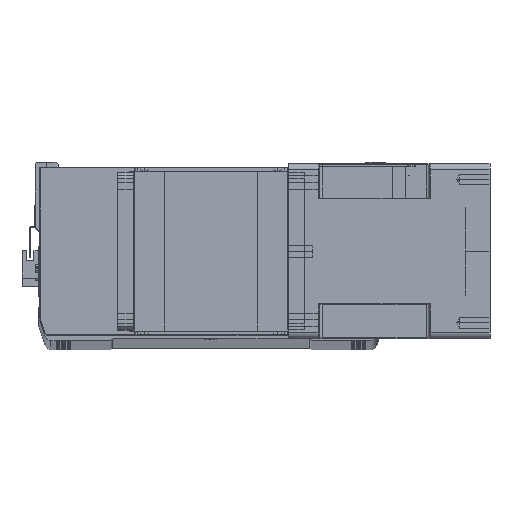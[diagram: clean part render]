
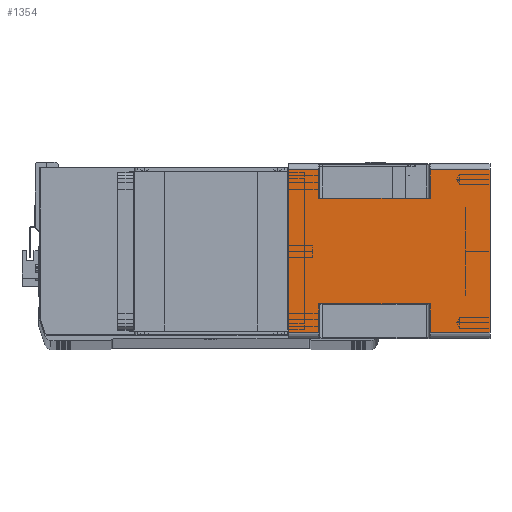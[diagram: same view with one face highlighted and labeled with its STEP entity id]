
A CAD part, top view. The second image highlights one B-rep face of the part: STEP entity #1354.
In plain terms, the highlighted planar face has unit normal (0, 0, 1) as drawn and (1, 0, 0) by its records, which use the part's own axes.
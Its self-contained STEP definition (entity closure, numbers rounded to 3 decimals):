
#300 = VECTOR ( 'NONE', #25486, 1000. ) ;
#1149 = VECTOR ( 'NONE', #27976, 1000. ) ;
#1283 = ORIENTED_EDGE ( 'NONE', *, *, #35229, .T. ) ;
#1354 = ADVANCED_FACE ( 'NONE', ( #35197 ), #1384, .T. ) ;
#1384 = PLANE ( 'NONE',  #24129 ) ;
#1891 = ORIENTED_EDGE ( 'NONE', *, *, #7673, .T. ) ;
#1952 = CARTESIAN_POINT ( 'NONE',  ( 71., -66., -115.5 ) ) ;
#2002 = CARTESIAN_POINT ( 'NONE',  ( 71., -66., -164. ) ) ;
#2367 = ORIENTED_EDGE ( 'NONE', *, *, #21712, .F. ) ;
#2446 = CARTESIAN_POINT ( 'NONE',  ( 71., 66., 0. ) ) ;
#2822 = VECTOR ( 'NONE', #30596, 1000. ) ;
#2970 = CARTESIAN_POINT ( 'NONE',  ( 71., -66., -164. ) ) ;
#3609 = EDGE_CURVE ( 'NONE', #33498, #3744, #27576, .T. ) ;
#3744 = VERTEX_POINT ( 'NONE', #37871 ) ;
#3885 = ORIENTED_EDGE ( 'NONE', *, *, #23223, .F. ) ;
#3886 = VECTOR ( 'NONE', #12832, 1000. ) ;
#4821 = CARTESIAN_POINT ( 'NONE',  ( 71., -43., -24.5 ) ) ;
#4894 = LINE ( 'NONE', #16362, #5373 ) ;
#5203 = VERTEX_POINT ( 'NONE', #8467 ) ;
#5373 = VECTOR ( 'NONE', #22307, 1000. ) ;
#6434 = EDGE_CURVE ( 'NONE', #28082, #17683, #24520, .T. ) ;
#6644 = EDGE_CURVE ( 'NONE', #17683, #30566, #28159, .T. ) ;
#6706 = CARTESIAN_POINT ( 'NONE',  ( 71., -66., -24.5 ) ) ;
#6786 = ORIENTED_EDGE ( 'NONE', *, *, #13536, .T. ) ;
#7673 = EDGE_CURVE ( 'NONE', #7784, #28082, #4894, .T. ) ;
#7784 = VERTEX_POINT ( 'NONE', #2970 ) ;
#8459 = CARTESIAN_POINT ( 'NONE',  ( 71., -43., -164. ) ) ;
#8467 = CARTESIAN_POINT ( 'NONE',  ( 71., 43., -24.5 ) ) ;
#9980 = VERTEX_POINT ( 'NONE', #28457 ) ;
#10025 = LINE ( 'NONE', #16212, #36262 ) ;
#11021 = CARTESIAN_POINT ( 'NONE',  ( 71., 66., -164. ) ) ;
#11029 = VECTOR ( 'NONE', #25930, 1000. ) ;
#11376 = CARTESIAN_POINT ( 'NONE',  ( 71., 66., -164. ) ) ;
#11938 = VECTOR ( 'NONE', #14504, 1000. ) ;
#12171 = LINE ( 'NONE', #4821, #1149 ) ;
#12832 = DIRECTION ( 'NONE',  ( 0., 0., 1. ) ) ;
#13450 = LINE ( 'NONE', #33700, #2822 ) ;
#13488 = EDGE_CURVE ( 'NONE', #21686, #36299, #21402, .T. ) ;
#13536 = EDGE_CURVE ( 'NONE', #21686, #3744, #12171, .T. ) ;
#13545 = ORIENTED_EDGE ( 'NONE', *, *, #6434, .T. ) ;
#14504 = DIRECTION ( 'NONE',  ( 0., 0., 1. ) ) ;
#14515 = ORIENTED_EDGE ( 'NONE', *, *, #32695, .T. ) ;
#15564 = DIRECTION ( 'NONE',  ( 0., 1., 0. ) ) ;
#15850 = LINE ( 'NONE', #6706, #31502 ) ;
#16212 = CARTESIAN_POINT ( 'NONE',  ( 71., -66., 0. ) ) ;
#16362 = CARTESIAN_POINT ( 'NONE',  ( 71., -66., -164. ) ) ;
#16949 = CARTESIAN_POINT ( 'NONE',  ( 71., -66., -115.5 ) ) ;
#17508 = DIRECTION ( 'NONE',  ( 0., 0., 1. ) ) ;
#17683 = VERTEX_POINT ( 'NONE', #23509 ) ;
#17997 = VECTOR ( 'NONE', #17508, 1000. ) ;
#18039 = CARTESIAN_POINT ( 'NONE',  ( 71., 43., -115.5 ) ) ;
#18628 = VERTEX_POINT ( 'NONE', #2446 ) ;
#18762 = CARTESIAN_POINT ( 'NONE',  ( 71., 66., -164. ) ) ;
#18807 = CARTESIAN_POINT ( 'NONE',  ( 71., -66., 0. ) ) ;
#19068 = CARTESIAN_POINT ( 'NONE',  ( 71., -66., -164. ) ) ;
#19438 = EDGE_CURVE ( 'NONE', #36299, #18628, #10025, .T. ) ;
#20895 = DIRECTION ( 'NONE',  ( 0., -1., 0. ) ) ;
#21402 = LINE ( 'NONE', #21714, #3886 ) ;
#21571 = DIRECTION ( 'NONE',  ( 0., 1., 0. ) ) ;
#21686 = VERTEX_POINT ( 'NONE', #36751 ) ;
#21712 = EDGE_CURVE ( 'NONE', #5203, #30566, #13450, .T. ) ;
#21714 = CARTESIAN_POINT ( 'NONE',  ( 71., -66., -164. ) ) ;
#21781 = DIRECTION ( 'NONE',  ( 0., 1., 0. ) ) ;
#21953 = DIRECTION ( 'NONE',  ( 1., 0., 0. ) ) ;
#22100 = EDGE_LOOP ( 'NONE', ( #35758, #1283, #3885, #1891, #13545, #28071, #2367, #31389, #14515, #30570, #34670, #6786 ) ) ;
#22307 = DIRECTION ( 'NONE',  ( 0., 1., 0. ) ) ;
#22454 = CARTESIAN_POINT ( 'NONE',  ( 71., -43., -115.5 ) ) ;
#23138 = VECTOR ( 'NONE', #20895, 1000. ) ;
#23223 = EDGE_CURVE ( 'NONE', #7784, #25097, #30344, .T. ) ;
#23509 = CARTESIAN_POINT ( 'NONE',  ( 71., 66., -115.5 ) ) ;
#24129 = AXIS2_PLACEMENT_3D ( 'NONE', #19068, #21953, #21571 ) ;
#24520 = LINE ( 'NONE', #11021, #36939 ) ;
#25097 = VERTEX_POINT ( 'NONE', #16949 ) ;
#25486 = DIRECTION ( 'NONE',  ( 0., -1., 0. ) ) ;
#25903 = CARTESIAN_POINT ( 'NONE',  ( 71., 43., -115.5 ) ) ;
#25930 = DIRECTION ( 'NONE',  ( 0., 0., 1. ) ) ;
#26894 = LINE ( 'NONE', #1952, #300 ) ;
#27576 = LINE ( 'NONE', #8459, #11938 ) ;
#27976 = DIRECTION ( 'NONE',  ( 0., 1., 0. ) ) ;
#28071 = ORIENTED_EDGE ( 'NONE', *, *, #6644, .T. ) ;
#28082 = VERTEX_POINT ( 'NONE', #18762 ) ;
#28159 = LINE ( 'NONE', #18039, #23138 ) ;
#28457 = CARTESIAN_POINT ( 'NONE',  ( 71., 66., -24.5 ) ) ;
#30344 = LINE ( 'NONE', #2002, #11029 ) ;
#30566 = VERTEX_POINT ( 'NONE', #25903 ) ;
#30570 = ORIENTED_EDGE ( 'NONE', *, *, #19438, .F. ) ;
#30596 = DIRECTION ( 'NONE',  ( 0., 0., -1. ) ) ;
#31389 = ORIENTED_EDGE ( 'NONE', *, *, #31478, .T. ) ;
#31478 = EDGE_CURVE ( 'NONE', #5203, #9980, #15850, .T. ) ;
#31502 = VECTOR ( 'NONE', #15564, 1000. ) ;
#32695 = EDGE_CURVE ( 'NONE', #9980, #18628, #37330, .T. ) ;
#33498 = VERTEX_POINT ( 'NONE', #22454 ) ;
#33700 = CARTESIAN_POINT ( 'NONE',  ( 71., 43., -164. ) ) ;
#34670 = ORIENTED_EDGE ( 'NONE', *, *, #13488, .F. ) ;
#35197 = FACE_OUTER_BOUND ( 'NONE', #22100, .T. ) ;
#35229 = EDGE_CURVE ( 'NONE', #33498, #25097, #26894, .T. ) ;
#35758 = ORIENTED_EDGE ( 'NONE', *, *, #3609, .F. ) ;
#36262 = VECTOR ( 'NONE', #21781, 1000. ) ;
#36299 = VERTEX_POINT ( 'NONE', #18807 ) ;
#36751 = CARTESIAN_POINT ( 'NONE',  ( 71., -66., -24.5 ) ) ;
#36939 = VECTOR ( 'NONE', #36969, 1000. ) ;
#36969 = DIRECTION ( 'NONE',  ( 0., 0., 1. ) ) ;
#37330 = LINE ( 'NONE', #11376, #17997 ) ;
#37871 = CARTESIAN_POINT ( 'NONE',  ( 71., -43., -24.5 ) ) ;
